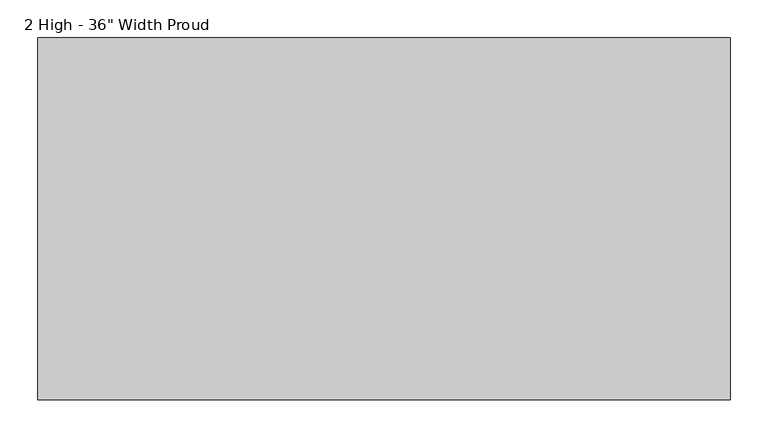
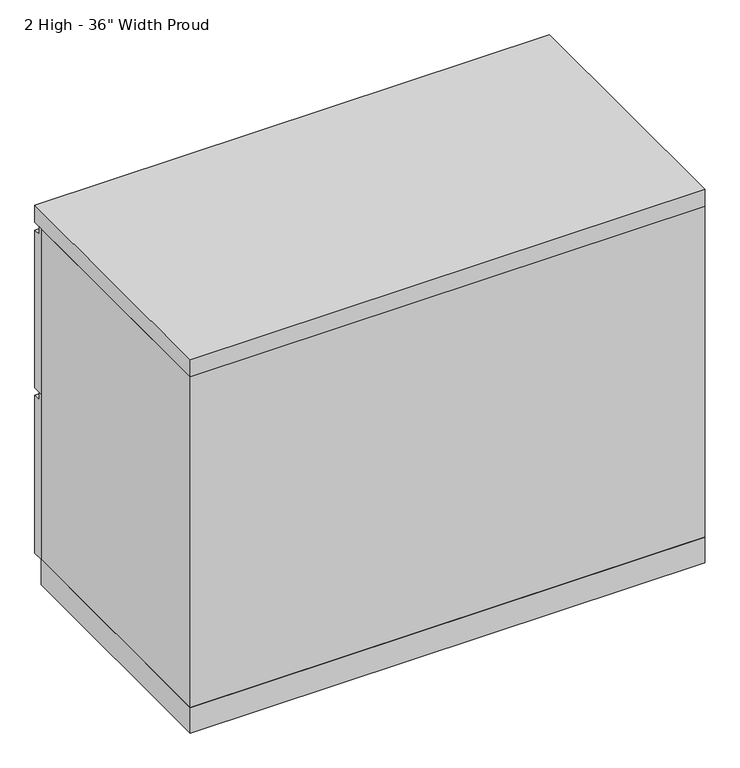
"""IFC4 building model written with IfcOpenShell, lengths in millimetres: furniture geometry."""

import ifcopenshell
import ifcopenshell.guid

model = None  # the IFC model being written
_history = None  # IfcOwnerHistory: only IFC2X3 demands one
_inside = {}  # id of a spatial element -> (the spatial element, [elements in it])
_under = {}  # id of a project, library or spatial element -> (it, [spatial elements below it])
_declared = {}  # id of a project -> (the project, [libraries it declares])
_typed = {}  # id of a type object -> (the type object, [elements of that type])
_made_of = {}  # id of a material, layer set ... -> (it, [elements and type objects made of it])


def new_model(schema):
    """Start an empty IFC model of exactly this schema.

    Asked for "IFC4X3", IfcOpenShell would pick the latest addendum, in which some entities
    have other attributes; the version numbers below select the first issue.
    IFC2X3 requires an IfcOwnerHistory on every rooted entity: one is made here for all.
    """
    global model, _history
    if schema == "IFC4X3":
        model = ifcopenshell.file(schema_version=(4, 3, 0, 0))
    else:
        model = ifcopenshell.file(schema=schema)
    _inside.clear()
    _under.clear()
    _declared.clear()
    _typed.clear()
    _made_of.clear()
    _history = None
    if model.schema == "IFC2X3":
        org = make("IfcOrganization", Name="unknown")
        user = make(
            "IfcPersonAndOrganization",
            ThePerson=make("IfcPerson", FamilyName="unknown"),
            TheOrganization=org,
        )
        app = make(
            "IfcApplication",
            ApplicationDeveloper=org,
            Version="unknown",
            ApplicationFullName="unknown",
            ApplicationIdentifier="unknown",
        )
        _history = make(
            "IfcOwnerHistory",
            OwningUser=user,
            OwningApplication=app,
            ChangeAction="ADDED",
            CreationDate=0,
        )
    return model


def make(cls, **values):
    """One entity of the class cls with the attributes given. An attribute that is None is left unset."""
    return model.create_entity(
        cls, **{name: value for name, value in values.items() if value is not None}
    )


def rooted(cls, **values):
    """An entity with a GlobalId (a new one), such as an element, a storey or a relation."""
    return make(cls, GlobalId=ifcopenshell.guid.new(), OwnerHistory=_history, **values)


def si_unit(unit_type, name, prefix=None):
    """IfcSIUnit, for example si_unit("LENGTHUNIT", "METRE", prefix="MILLI")."""
    return make("IfcSIUnit", UnitType=unit_type, Prefix=prefix, Name=name)


def assignment(units):
    """IfcUnitAssignment: the units of a project."""
    return None if units is None else make("IfcUnitAssignment", Units=units)


def point(xyz):
    """IfcCartesianPoint."""
    return None if xyz is None else make("IfcCartesianPoint", Coordinates=xyz)


def direction(xyz):
    """IfcDirection."""
    return None if xyz is None else make("IfcDirection", DirectionRatios=xyz)


def frame(location, z_axis=None, x_axis=None):
    """IfcAxis2Placement3D, a coordinate frame: its origin and axes. An axis left out is left unset."""
    return make(
        "IfcAxis2Placement3D",
        Location=point(location),
        Axis=direction(z_axis),
        RefDirection=direction(x_axis),
    )


def origin():
    """The frame at (0, 0, 0) with its axes left unset."""
    return frame((0.0, 0.0, 0.0))


def origin_with_axes():
    """The frame at (0, 0, 0) with the z axis (0, 0, 1) and the x axis (1, 0, 0) written out."""
    return frame((0.0, 0.0, 0.0), z_axis=(0.0, 0.0, 1.0), x_axis=(1.0, 0.0, 0.0))


def place(relative_to, where):
    """IfcLocalPlacement: puts the frame where relative to a parent placement (None: the world)."""
    return make(
        "IfcLocalPlacement", PlacementRelTo=relative_to, RelativePlacement=where
    )


def context(
    kind, dimensions, precision=None, world=None, true_north=None, identifier=None
):
    """IfcGeometricRepresentationContext, for example the 3D "Model" context."""
    return make(
        "IfcGeometricRepresentationContext",
        ContextIdentifier=identifier,
        ContextType=kind,
        CoordinateSpaceDimension=dimensions,
        Precision=precision,
        WorldCoordinateSystem=world,
        TrueNorth=true_north,
    )


def project(units=None, contexts=None):
    """IfcProject with its units and contexts."""
    return rooted(
        "IfcProject",
        Name="project",
        RepresentationContexts=contexts,
        UnitsInContext=assignment(units),
    )


def spatial(cls, under=None, at=None, **own):
    """A site, building, storey or space (cls), placed at a placement, below another one or the project."""
    s = rooted(cls, ObjectPlacement=at, **own)
    if under is not None:
        _under.setdefault(under.id(), (under, []))[1].append(s)
    return s


def polyline(points):
    """IfcPolyline through the points."""
    return make("IfcPolyline", Points=[point(p) for p in points])


def outline(outer, holes=None, kind="AREA"):
    """IfcArbitraryClosedProfileDef: a profile drawn as a closed curve; with holes, ...WithVoids."""
    if holes is None:
        return make("IfcArbitraryClosedProfileDef", ProfileType=kind, OuterCurve=outer)
    return make(
        "IfcArbitraryProfileDefWithVoids",
        ProfileType=kind,
        OuterCurve=outer,
        InnerCurves=holes,
    )


def extrude(swept, where, along, depth):
    """IfcExtrudedAreaSolid: the profile swept, set in the frame where, extruded along a direction by depth."""
    return make(
        "IfcExtrudedAreaSolid",
        SweptArea=swept,
        Position=where,
        ExtrudedDirection=direction(along),
        Depth=depth,
    )


def shape(context_of_items, identifier, shape_type, items):
    """IfcShapeRepresentation: the items that make up one representation, for example the "Body"."""
    return make(
        "IfcShapeRepresentation",
        ContextOfItems=context_of_items,
        RepresentationIdentifier=identifier,
        RepresentationType=shape_type,
        Items=items,
    )


def source(mapping_origin, context_of_items, identifier, shape_type, items):
    """IfcRepresentationMap: a shape defined once, which mapped items show again and again."""
    return make(
        "IfcRepresentationMap",
        MappingOrigin=mapping_origin,
        MappedRepresentation=shape(context_of_items, identifier, shape_type, items),
    )


def transform(
    local_origin,
    x_axis=None,
    y_axis=None,
    z_axis=None,
    scale=None,
    scale2=None,
    scale3=None,
    uniform=True,
):
    """IfcCartesianTransformationOperator3D, or its non-uniform kind. x_axis, y_axis, z_axis: its Axis1, 2, 3."""
    if uniform:
        return make(
            "IfcCartesianTransformationOperator3D",
            Axis1=direction(x_axis),
            Axis2=direction(y_axis),
            LocalOrigin=point(local_origin),
            Scale=scale,
            Axis3=direction(z_axis),
        )
    return make(
        "IfcCartesianTransformationOperator3DnonUniform",
        Axis1=direction(x_axis),
        Axis2=direction(y_axis),
        LocalOrigin=point(local_origin),
        Scale=scale,
        Axis3=direction(z_axis),
        Scale2=scale2,
        Scale3=scale3,
    )


def mapped(mapping_source, mapping_target):
    """IfcMappedItem: shows the shape of a source again, moved by a transform."""
    return make(
        "IfcMappedItem", MappingSource=mapping_source, MappingTarget=mapping_target
    )


def made_of(thing, what):
    """Note that an element or type object is made of a material, layer set ...; save() writes the relation."""
    if what is not None:
        _made_of.setdefault(what.id(), (what, []))[1].append(thing)
    return thing


def element(
    cls,
    number,
    at=None,
    inside=None,
    cuts=None,
    type_object=None,
    material=None,
    context=None,
    identifier="Body",
    shape_type=None,
    held_by="IfcProductDefinitionShape",
    body=None,
    shapes=None,
    **own,
):
    """One element of the class cls, such as IfcWall. Its Tag is "e" and its number.

    at: its placement. inside: the storey or other place that contains it. cuts: it is an
    opening in that element (IfcRelVoidsElement). A single representation is given by context,
    identifier, shape_type and body (its items); several are given by shapes. held_by: the class
    of the entity that holds the representations. save() writes the other relations.
    """
    e = rooted(cls, Tag="e%d" % number, ObjectPlacement=at, **own)
    if body is not None:
        shapes = [shape(context, identifier, shape_type, body)]
    if shapes is not None:
        e.Representation = make(held_by, Representations=shapes)
    if inside is not None:
        _inside.setdefault(inside.id(), (inside, []))[1].append(e)
    if cuts is not None:
        rooted(
            "IfcRelVoidsElement", RelatingBuildingElement=cuts, RelatedOpeningElement=e
        )
    if type_object is not None:
        _typed.setdefault(type_object.id(), (type_object, []))[1].append(e)
    return made_of(e, material)


def aggregate(whole, parts):
    """IfcRelAggregates: a whole, such as a stair, and the parts it consists of."""
    return rooted("IfcRelAggregates", RelatingObject=whole, RelatedObjects=parts)


def save(model, path):
    """Write the relations noted so far, then the file.

    IfcRelAggregates (storeys below a building ...), IfcRelContainedInSpatialStructure (elements
    in a storey), IfcRelDefinesByType, IfcRelAssociatesMaterial and IfcRelDeclares: one each for
    every whole, place, type object, material and project.
    """
    for whole, parts in _under.values():
        aggregate(whole, parts)
    for where, things in _inside.values():
        rooted(
            "IfcRelContainedInSpatialStructure",
            RelatedElements=things,
            RelatingStructure=where,
        )
    for kind, things in _typed.values():
        rooted("IfcRelDefinesByType", RelatedObjects=things, RelatingType=kind)
    for what, things in _made_of.values():
        rooted("IfcRelAssociatesMaterial", RelatedObjects=things, RelatingMaterial=what)
    for by, libraries in _declared.values():
        rooted("IfcRelDeclares", RelatingContext=by, RelatedDefinitions=libraries)
    model.write(path)


def furniture_1deb3490(model_context):
    return source(origin(), model_context, "Body", "SweptSolid", [
        extrude(outline(polyline([(457.2, 357.1875), (457.2, 666.75), (463.55, 666.75), (463.55, 652.4625), (476.25, 652.4625), (476.25, 357.1875), (457.2, 357.1875)])), frame((-455.6125, 0.0, 0.0), z_axis=(1.0, 0.0, 0.0), x_axis=(0.0, 1.0, 0.0)), (0.0, 0.0, 1.0), 911.225),
        extrude(outline(polyline([(457.2, 47.625), (457.2, 357.1875), (463.55, 357.1875), (463.55, 342.9), (476.25, 342.9), (476.25, 47.625), (457.2, 47.625)])), frame((-455.6125, 0.0, 0.0), z_axis=(1.0, 0.0, 0.0), x_axis=(0.0, 1.0, 0.0)), (0.0, 0.0, 1.0), 911.225),
        extrude(outline(polyline([(455.6125, 0.0), (-455.6125, 0.0), (-455.6125, 457.2), (455.6125, 457.2), (455.6125, 0.0)])), origin_with_axes(), (0.0, 0.0, 1.0), 47.625),
        extrude(outline(polyline([(455.6125, 0.0), (-455.6125, 0.0), (-455.6125, 476.25), (455.6125, 476.25), (455.6125, 0.0)])), frame((0.0, 0.0, 666.75), z_axis=(0.0, 0.0, 1.0), x_axis=(1.0, 0.0, 0.0)), (0.0, 0.0, 1.0), 31.75),
        extrude(outline(polyline([(455.6125, 0.0), (-455.6125, 0.0), (-455.6125, 457.2), (-436.5625, 457.2), (-436.5625, 19.05), (436.5625, 19.05), (436.5625, 457.2), (455.6125, 457.2), (455.6125, 0.0)])), frame((0.0, 0.0, 47.625), z_axis=(0.0, 0.0, 1.0), x_axis=(1.0, 0.0, 0.0)), (0.0, 0.0, 1.0), 619.125),
    ])


if __name__ == "__main__":
    model = new_model("IFC4")
    model_context = context("Model", 3, world=origin())
    ifc_project = project(units=[si_unit("LENGTHUNIT", "METRE", prefix="MILLI")], contexts=[model_context])
    site = spatial("IfcSite", under=ifc_project)
    building = spatial("IfcBuilding", under=site)
    placement = place(None, origin())
    furniture_shape = furniture_1deb3490(model_context)
    element("IfcFurniture", 1, ObjectType="Haworth_XSeries-Lateral_Files : 2 High - 36\" Width Proud", at=placement, inside=building, context=model_context, shape_type="MappedRepresentation", body=[
        mapped(furniture_shape, transform((0.0, 0.0, 0.0), x_axis=(1.0, 0.0, 0.0), y_axis=(0.0, 1.0, 0.0), z_axis=(0.0, 0.0, 1.0))),
    ])
    save(model, "model.ifc")
